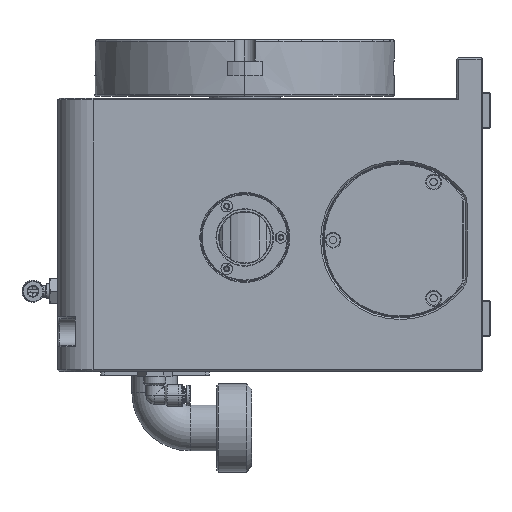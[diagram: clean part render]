
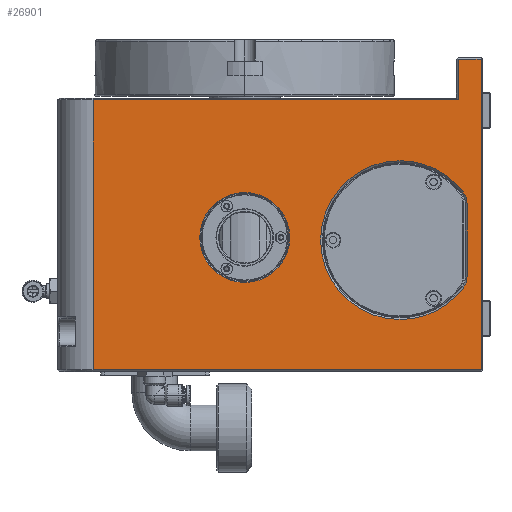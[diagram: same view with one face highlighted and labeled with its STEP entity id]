
A CAD part, left-side view. The second image highlights one B-rep face of the part: STEP entity #26901.
In plain terms, the highlighted planar face has unit normal (-1, 0, 0).
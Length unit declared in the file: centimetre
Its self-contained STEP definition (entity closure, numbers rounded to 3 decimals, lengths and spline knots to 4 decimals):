
#8 = CARTESIAN_POINT ( 'NONE',  ( -9.8, -12.05, -7.65 ) ) ;
#405 = DIRECTION ( 'NONE',  ( 0., 1., 0. ) ) ;
#1111 = ORIENTED_EDGE ( 'NONE', *, *, #5643, .T. ) ;
#1385 = DIRECTION ( 'NONE',  ( 0., 0., -1. ) ) ;
#1746 = CARTESIAN_POINT ( 'NONE',  ( -9.8, -10.65, 7.75 ) ) ;
#2056 = DIRECTION ( 'NONE',  ( 0., 0., -1. ) ) ;
#2277 = CARTESIAN_POINT ( 'NONE',  ( -9.8, -10.65, 7.65 ) ) ;
#2457 = ORIENTED_EDGE ( 'NONE', *, *, #12597, .T. ) ;
#2812 = VECTOR ( 'NONE', #12776, 100. ) ;
#3790 = LINE ( 'NONE', #19355, #2812 ) ;
#4191 = FACE_BOUND ( 'NONE', #25401, .T. ) ;
#4194 = CIRCLE ( 'NONE', #10931, 4.5 ) ;
#4359 = DIRECTION ( 'NONE',  ( 0., -1., 0. ) ) ;
#4516 = VECTOR ( 'NONE', #16877, 100. ) ;
#4529 = DIRECTION ( 'NONE',  ( 0., 0., -1. ) ) ;
#5021 = CARTESIAN_POINT ( 'NONE',  ( -9.8, 1.45, 2.4 ) ) ;
#5497 = DIRECTION ( 'NONE',  ( 0., 0., -1. ) ) ;
#5643 = EDGE_CURVE ( 'NONE', #17109, #12612, #5809, .T. ) ;
#5809 = LINE ( 'NONE', #12484, #9523 ) ;
#5922 = DIRECTION ( 'NONE',  ( 1., 0., 0. ) ) ;
#5972 = DIRECTION ( 'NONE',  ( 1., 0., 0. ) ) ;
#5991 = DIRECTION ( 'NONE',  ( 0., 0., -1. ) ) ;
#6008 = ORIENTED_EDGE ( 'NONE', *, *, #23265, .T. ) ;
#6107 = ORIENTED_EDGE ( 'NONE', *, *, #15196, .T. ) ;
#6280 = CARTESIAN_POINT ( 'NONE',  ( -9.8, 1.45, -0.15 ) ) ;
#6553 = LINE ( 'NONE', #14296, #24498 ) ;
#6600 = DIRECTION ( 'NONE',  ( 0., 0., -1. ) ) ;
#7161 = DIRECTION ( 'NONE',  ( 0., 0., -1. ) ) ;
#7382 = LINE ( 'NONE', #7532, #18217 ) ;
#7453 = ORIENTED_EDGE ( 'NONE', *, *, #23272, .T. ) ;
#7523 = DIRECTION ( 'NONE',  ( 0., 0., 1. ) ) ;
#7532 = CARTESIAN_POINT ( 'NONE',  ( -9.8, -11.15, -2.3664 ) ) ;
#7588 = VERTEX_POINT ( 'NONE', #14882 ) ;
#7649 = AXIS2_PLACEMENT_3D ( 'NONE', #22979, #5922, #1385 ) ;
#8413 = CARTESIAN_POINT ( 'NONE',  ( -9.8, -10.05, 1.7664 ) ) ;
#8631 = ORIENTED_EDGE ( 'NONE', *, *, #14601, .T. ) ;
#8851 = CARTESIAN_POINT ( 'NONE',  ( -9.8, -12.05, 7.75 ) ) ;
#8891 = ORIENTED_EDGE ( 'NONE', *, *, #26924, .T. ) ;
#8954 = CIRCLE ( 'NONE', #12020, 4.5 ) ;
#9523 = VECTOR ( 'NONE', #23877, 100. ) ;
#9666 = EDGE_LOOP ( 'NONE', ( #2457, #8631 ) ) ;
#9977 = VERTEX_POINT ( 'NONE', #20928 ) ;
#10471 = AXIS2_PLACEMENT_3D ( 'NONE', #15335, #21797, #4529 ) ;
#10610 = LINE ( 'NONE', #8, #27609 ) ;
#10931 = AXIS2_PLACEMENT_3D ( 'NONE', #23331, #12709, #19099 ) ;
#11056 = EDGE_CURVE ( 'NONE', #14250, #7588, #7382, .T. ) ;
#11093 = VERTEX_POINT ( 'NONE', #24661 ) ;
#11447 = CARTESIAN_POINT ( 'NONE',  ( -9.8, -10.9235, 2.4349 ) ) ;
#12020 = AXIS2_PLACEMENT_3D ( 'NONE', #22467, #15544, #5497 ) ;
#12087 = CIRCLE ( 'NONE', #10471, 1.1 ) ;
#12200 = AXIS2_PLACEMENT_3D ( 'NONE', #8413, #28152, #2056 ) ;
#12484 = CARTESIAN_POINT ( 'NONE',  ( -9.8, 10.05, 7.75 ) ) ;
#12487 = CARTESIAN_POINT ( 'NONE',  ( -9.8, 1.45, -2.7 ) ) ;
#12552 = EDGE_CURVE ( 'NONE', #25866, #23410, #4194, .T. ) ;
#12597 = EDGE_CURVE ( 'NONE', #12764, #25757, #23549, .T. ) ;
#12612 = VERTEX_POINT ( 'NONE', #25797 ) ;
#12709 = DIRECTION ( 'NONE',  ( 1., 0., 0. ) ) ;
#12764 = VERTEX_POINT ( 'NONE', #5021 ) ;
#12766 = ORIENTED_EDGE ( 'NONE', *, *, #12552, .T. ) ;
#12776 = DIRECTION ( 'NONE',  ( 0., 1., 0. ) ) ;
#12813 = EDGE_CURVE ( 'NONE', #23410, #21487, #8954, .T. ) ;
#13008 = LINE ( 'NONE', #26383, #13337 ) ;
#13119 = ORIENTED_EDGE ( 'NONE', *, *, #11056, .T. ) ;
#13337 = VECTOR ( 'NONE', #405, 100. ) ;
#13540 = CARTESIAN_POINT ( 'NONE',  ( -9.8, -11.15, 1.7664 ) ) ;
#14101 = ORIENTED_EDGE ( 'NONE', *, *, #12813, .T. ) ;
#14250 = VERTEX_POINT ( 'NONE', #13540 ) ;
#14296 = CARTESIAN_POINT ( 'NONE',  ( -9.8, -11.95, 7.75 ) ) ;
#14601 = EDGE_CURVE ( 'NONE', #25757, #12764, #22861, .T. ) ;
#14671 = LINE ( 'NONE', #1746, #4516 ) ;
#14882 = CARTESIAN_POINT ( 'NONE',  ( -9.8, -11.15, -2.3664 ) ) ;
#15196 = EDGE_CURVE ( 'NONE', #9977, #25866, #20147, .T. ) ;
#15335 = CARTESIAN_POINT ( 'NONE',  ( -9.8, -10.05, -2.3664 ) ) ;
#15544 = DIRECTION ( 'NONE',  ( 1., 0., 0. ) ) ;
#15717 = EDGE_CURVE ( 'NONE', #23936, #16762, #6553, .T. ) ;
#15726 = FACE_OUTER_BOUND ( 'NONE', #17418, .T. ) ;
#16113 = ORIENTED_EDGE ( 'NONE', *, *, #23823, .T. ) ;
#16762 = VERTEX_POINT ( 'NONE', #21256 ) ;
#16877 = DIRECTION ( 'NONE',  ( 0., 0., -1. ) ) ;
#17064 = CARTESIAN_POINT ( 'NONE',  ( -9.8, 1.45, -0.15 ) ) ;
#17109 = VERTEX_POINT ( 'NONE', #27205 ) ;
#17418 = EDGE_LOOP ( 'NONE', ( #1111, #7453, #18834, #8891, #6008, #16113 ) ) ;
#17641 = AXIS2_PLACEMENT_3D ( 'NONE', #17064, #21439, #5991 ) ;
#18217 = VECTOR ( 'NONE', #7161, 100. ) ;
#18834 = ORIENTED_EDGE ( 'NONE', *, *, #15717, .T. ) ;
#19024 = EDGE_CURVE ( 'NONE', #21487, #14250, #26392, .T. ) ;
#19099 = DIRECTION ( 'NONE',  ( 0., 0., -1. ) ) ;
#19355 = CARTESIAN_POINT ( 'NONE',  ( -9.8, -12.05, 7.65 ) ) ;
#19871 = PLANE ( 'NONE',  #26983 ) ;
#20147 = CIRCLE ( 'NONE', #7649, 4.5 ) ;
#20488 = FACE_BOUND ( 'NONE', #9666, .T. ) ;
#20928 = CARTESIAN_POINT ( 'NONE',  ( -9.8, -10.9235, -3.0349 ) ) ;
#21256 = CARTESIAN_POINT ( 'NONE',  ( -9.8, -11.95, 9.95 ) ) ;
#21345 = EDGE_CURVE ( 'NONE', #7588, #9977, #12087, .T. ) ;
#21439 = DIRECTION ( 'NONE',  ( 1., 0., 0. ) ) ;
#21487 = VERTEX_POINT ( 'NONE', #11447 ) ;
#21797 = DIRECTION ( 'NONE',  ( 1., 0., 0. ) ) ;
#22183 = ORIENTED_EDGE ( 'NONE', *, *, #21345, .T. ) ;
#22467 = CARTESIAN_POINT ( 'NONE',  ( -9.8, -7.35, -0.3 ) ) ;
#22861 = CIRCLE ( 'NONE', #24677, 2.55 ) ;
#22979 = CARTESIAN_POINT ( 'NONE',  ( -9.8, -7.35, -0.3 ) ) ;
#23265 = EDGE_CURVE ( 'NONE', #11093, #28170, #14671, .T. ) ;
#23272 = EDGE_CURVE ( 'NONE', #12612, #23936, #10610, .T. ) ;
#23331 = CARTESIAN_POINT ( 'NONE',  ( -9.8, -7.35, -0.3 ) ) ;
#23410 = VERTEX_POINT ( 'NONE', #26753 ) ;
#23549 = CIRCLE ( 'NONE', #17641, 2.55 ) ;
#23823 = EDGE_CURVE ( 'NONE', #28170, #17109, #3790, .T. ) ;
#23877 = DIRECTION ( 'NONE',  ( 0., 0., -1. ) ) ;
#23936 = VERTEX_POINT ( 'NONE', #24059 ) ;
#24059 = CARTESIAN_POINT ( 'NONE',  ( -9.8, -11.95, -7.65 ) ) ;
#24197 = DIRECTION ( 'NONE',  ( 1., 0., 0. ) ) ;
#24498 = VECTOR ( 'NONE', #7523, 100. ) ;
#24661 = CARTESIAN_POINT ( 'NONE',  ( -9.8, -10.65, 9.95 ) ) ;
#24677 = AXIS2_PLACEMENT_3D ( 'NONE', #6280, #5972, #25885 ) ;
#25401 = EDGE_LOOP ( 'NONE', ( #28103, #13119, #22183, #6107, #12766, #14101 ) ) ;
#25757 = VERTEX_POINT ( 'NONE', #12487 ) ;
#25797 = CARTESIAN_POINT ( 'NONE',  ( -9.8, 10.05, -7.65 ) ) ;
#25866 = VERTEX_POINT ( 'NONE', #26257 ) ;
#25885 = DIRECTION ( 'NONE',  ( 0., 0., -1. ) ) ;
#26257 = CARTESIAN_POINT ( 'NONE',  ( -9.8, -7.35, -4.8 ) ) ;
#26383 = CARTESIAN_POINT ( 'NONE',  ( -9.8, -10.55, 9.95 ) ) ;
#26392 = CIRCLE ( 'NONE', #12200, 1.1 ) ;
#26753 = CARTESIAN_POINT ( 'NONE',  ( -9.8, -7.35, 4.2 ) ) ;
#26901 = ADVANCED_FACE ( 'NONE', ( #20488, #4191, #15726 ), #19871, .F. ) ;
#26924 = EDGE_CURVE ( 'NONE', #16762, #11093, #13008, .T. ) ;
#26983 = AXIS2_PLACEMENT_3D ( 'NONE', #8851, #24197, #6600 ) ;
#27205 = CARTESIAN_POINT ( 'NONE',  ( -9.8, 10.05, 7.65 ) ) ;
#27609 = VECTOR ( 'NONE', #4359, 100. ) ;
#28103 = ORIENTED_EDGE ( 'NONE', *, *, #19024, .T. ) ;
#28152 = DIRECTION ( 'NONE',  ( 1., 0., 0. ) ) ;
#28170 = VERTEX_POINT ( 'NONE', #2277 ) ;
